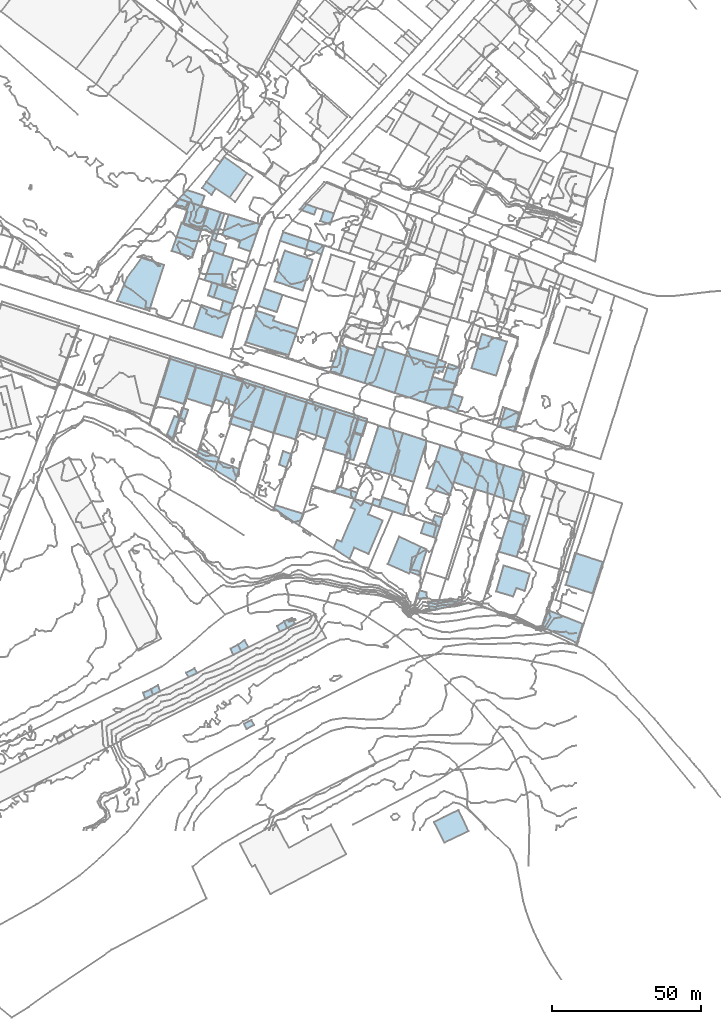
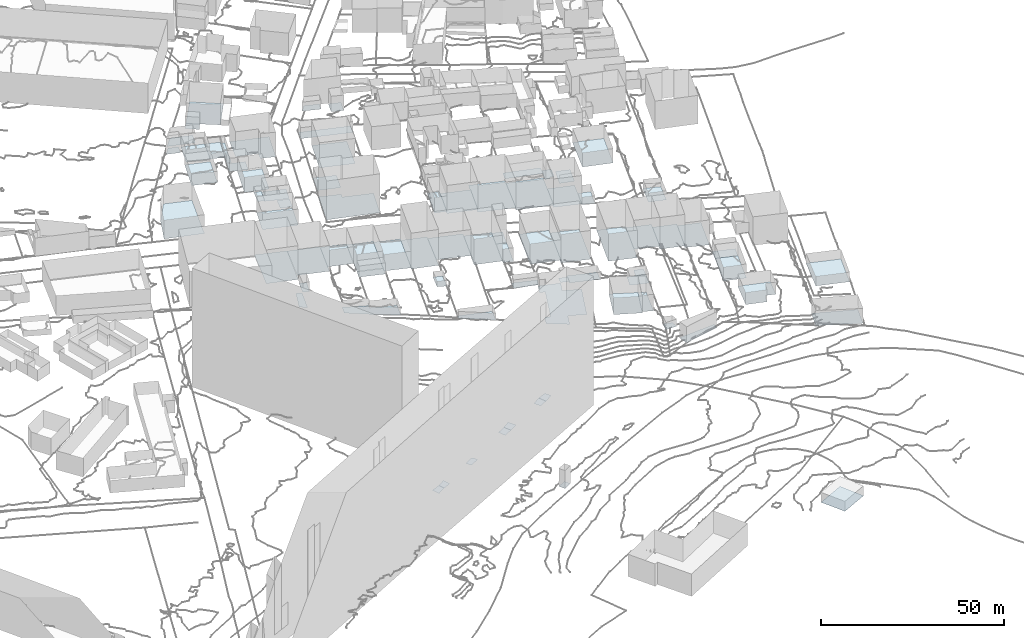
# Not in any storey, part 6 of 419: 79 footings.
"""IFC2X3 model written with IfcOpenShell, lengths in metres."""

from ifc_helpers import new_model, si_unit, frame, origin_with_axes, place, context, subcontext, project, faceted_brep, element, save


model = new_model("IFC2X3")

# Units and contexts
model_context = context("Model", 3, precision=1e-05, world=origin_with_axes())
body_context = subcontext(model_context, "Body", "Model", "MODEL_VIEW")
ifc_project = project(units=[si_unit("AREAUNIT", "SQUARE_METRE"), si_unit("LENGTHUNIT", "METRE")], contexts=[model_context])

# Footings
footing_1_placement = place(None, frame((922.9920204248, 76.0976909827, 71.5996003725), z_axis=(0.0, 0.0, 1.0), x_axis=(1.0, 0.0, 0.0)))
element("IfcFooting", 1, at=footing_1_placement, Name="Sol 0", PredefinedType="STRIP_FOOTING", context=body_context, shape_type="Brep", body=[
    faceted_brep([(3.4, 0.0, 0.0), (0.0, 0.0, 0.0), (0.7999999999, 2.7999999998, 0.0), (3.2, 2.0999999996, 0.0)], [[[0, 1, 2]], [[2, 3, 0]]]),
])
footing_2_placement = place(None, frame((928.6920204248, 152.1976909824, 73.6711987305), z_axis=(0.0, 0.0, 1.0), x_axis=(1.0, 0.0, 0.0)))
element("IfcFooting", 2, at=footing_2_placement, Name="Sol 0", PredefinedType="STRIP_FOOTING", context=body_context, shape_type="Brep", body=[
    faceted_brep([(1.5, -0.3999999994, 0.0), (0.0, 0.0, 0.0), (0.9, 2.5, 0.0), (4.0, 3.2999999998, 0.0), (2.9, 0.0, 0.0), (1.7000000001, 0.2999999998, 0.0), (1.3, 4.2000000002, 0.0)], [[[0, 1, 2]], [[3, 4, 5]], [[2, 6, 3]], [[5, 0, 2]], [[2, 3, 5]]]),
])
footing_3_placement = place(None, frame((841.2920204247, 207.9976909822, 78.8006016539), z_axis=(0.0, 0.0, 1.0), x_axis=(1.0, 0.0, 0.0)))
element("IfcFooting", 3, at=footing_3_placement, Name="Sol 0", PredefinedType="STRIP_FOOTING", context=body_context, shape_type="Brep", body=[
    faceted_brep([(1.9, 2.3000000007, 0.0), (4.7000000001, 1.4000000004, 0.0), (3.8, -1.1999999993, 0.0), (0.0, 0.0, 0.0)], [[[0, 1, 2]], [[2, 3, 0]]]),
])
footing_4_placement = place(None, frame((876.9920204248, 196.2976909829, 78.6641006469), z_axis=(0.0, 0.0, 1.0), x_axis=(1.0, 0.0, 0.0)))
element("IfcFooting", 4, at=footing_4_placement, Name="Sol 0", PredefinedType="STRIP_FOOTING", context=body_context, shape_type="Brep", body=[
    faceted_brep([(13.9, -4.6000000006, 0.0), (0.0, 0.0, 0.0), (1.0, 2.8999999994, 0.0), (14.9, -1.6000000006, 0.0)], [[[0, 1, 2]], [[2, 3, 0]]]),
])
footing_5_placement = place(None, frame((844.2920204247, 202.2976909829, 78.6877996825), z_axis=(0.0, 0.0, 1.0), x_axis=(1.0, 0.0, 0.0)))
element("IfcFooting", 5, at=footing_5_placement, Name="Sol 0", PredefinedType="STRIP_FOOTING", context=body_context, shape_type="Brep", body=[
    faceted_brep([(2.3, 6.8999999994, 0.0), (8.7000000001, 4.8999999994, 0.0), (6.4, -2.1000000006, 0.0), (0.0, 0.0, 0.0)], [[[0, 1, 2]], [[2, 3, 0]]]),
])
footing_6_placement = place(None, frame((852.7920204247, 193.2976909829, 77.9876005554), z_axis=(0.0, 0.0, 1.0), x_axis=(1.0, 0.0, 0.0)))
element("IfcFooting", 6, at=footing_6_placement, Name="Sol 0", PredefinedType="STRIP_FOOTING", context=body_context, shape_type="Brep", body=[
    faceted_brep([(0.0, 0.0, 0.0), (1.2000000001, 3.5999999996, 0.0), (2.4, 3.0999999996, 0.0), (6.1000000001, 1.8999999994, 0.0), (4.9, -1.8000000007, 0.0)], [[[0, 1, 2]], [[3, 4, 0]], [[0, 2, 3]]]),
])
footing_7_placement = place(None, frame((890.4920204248, 202.9976909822, 78.856399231), z_axis=(0.0, 0.0, 1.0), x_axis=(1.0, 0.0, 0.0)))
element("IfcFooting", 7, at=footing_7_placement, Name="Sol 0", PredefinedType="STRIP_FOOTING", context=body_context, shape_type="Brep", body=[
    faceted_brep([(0.0, 0.0, 0.0), (1.2, 3.6000000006, 0.0), (4.6, 2.5, 0.0), (3.2999999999, -1.1999999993, 0.0)], [[[0, 1, 2]], [[2, 3, 0]]]),
])
footing_8_placement = place(None, frame((852.1920204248, 216.0976909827, 80.4232022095), z_axis=(0.0, 0.0, 1.0), x_axis=(1.0, 0.0, 0.0)))
element("IfcFooting", 8, at=footing_8_placement, Name="Sol 0", PredefinedType="STRIP_FOOTING", context=body_context, shape_type="Brep", body=[
    faceted_brep([(0.0, 0.0, 0.0), (6.0, 8.3999999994, 0.0), (13.6, 3.0, 0.0), (7.8, -5.2999999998, 0.0)], [[[0, 1, 2]], [[2, 3, 0]]]),
])
footing_9_placement = place(None, frame((845.3920204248, 143.3976909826, 76.161000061), z_axis=(0.0, 0.0, 1.0), x_axis=(1.0, 0.0, 0.0)))
element("IfcFooting", 9, at=footing_9_placement, Name="Sol 0", PredefinedType="STRIP_FOOTING", context=body_context, shape_type="Brep", body=[
    faceted_brep([(12.2, 8.7000000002, 0.0), (8.6, -2.7000000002, 0.0), (0.0, 0.0, 0.0), (3.3999999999, 11.4000000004, 0.0)], [[[0, 1, 2]], [[2, 3, 0]]]),
])
footing_10_placement = place(None, frame((864.8920204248, 34.0976909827, 65.1509995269), z_axis=(0.0, 0.0, 1.0), x_axis=(1.0, 0.0, 0.0)))
element("IfcFooting", 10, at=footing_10_placement, Name="Sol 0", PredefinedType="STRIP_FOOTING", context=body_context, shape_type="Brep", body=[
    faceted_brep([(2.5, 1.2000000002, 0.0), (3.3999999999, -0.4000000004, 0.0), (0.8999999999, -1.7999999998, 0.0), (0.0, 0.0, 0.0)], [[[0, 1, 2]], [[2, 3, 0]]]),
])
footing_11_placement = place(None, frame((850.6920204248, 200.1976909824, 78.6877996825), z_axis=(0.0, 0.0, 1.0), x_axis=(1.0, 0.0, 0.0)))
element("IfcFooting", 11, at=footing_11_placement, Name="Sol 0", PredefinedType="STRIP_FOOTING", context=body_context, shape_type="Brep", body=[
    faceted_brep([(2.3, 7.0, 0.0), (6.4, 5.6000000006, 0.0), (3.9, -1.2999999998, 0.0), (0.0, 0.0, 0.0)], [[[0, 1, 2]], [[2, 3, 0]]]),
])
footing_12_placement = place(None, frame((926.2920204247, 113.2976909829, 70.8120025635), z_axis=(0.0, 0.0, 1.0), x_axis=(1.0, 0.0, 0.0)))
element("IfcFooting", 12, at=footing_12_placement, Name="Sol 0", PredefinedType="STRIP_FOOTING", context=body_context, shape_type="Brep", body=[
    faceted_brep([(4.6000000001, 14.3999999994, 0.0), (12.3, 11.8999999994, 0.0), (7.7000000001, -2.5, 0.0), (0.0, 0.0, 0.0)], [[[0, 1, 2]], [[2, 3, 0]]]),
])
footing_13_placement = place(None, frame((941.2920204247, 153.4976909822, 72.6200027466), z_axis=(0.0, 0.0, 1.0), x_axis=(1.0, 0.0, 0.0)))
element("IfcFooting", 13, at=footing_13_placement, Name="Sol 0", PredefinedType="STRIP_FOOTING", context=body_context, shape_type="Brep", body=[
    faceted_brep([(11.9, 8.9000000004, 0.0), (8.3, -2.5, 0.0), (0.0, 0.0, 0.0), (3.5, 11.5, 0.0)], [[[0, 1, 2]], [[2, 3, 0]]]),
])
footing_14_placement = place(None, frame((874.6920204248, 131.7976909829, 75.0439979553), z_axis=(0.0, 0.0, 1.0), x_axis=(1.0, 0.0, 0.0)))
element("IfcFooting", 14, at=footing_14_placement, Name="Sol 0", PredefinedType="STRIP_FOOTING", context=body_context, shape_type="Brep", body=[
    faceted_brep([(7.4, -2.2000000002, 0.0), (0.0, 0.0, 0.0), (4.3, 13.2999999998, 0.0), (11.4, 11.0999999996, 0.0)], [[[0, 1, 2]], [[2, 3, 0]]]),
])
footing_15_placement = place(None, frame((854.7920204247, 142.9976909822, 75.9445007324), z_axis=(0.0, 0.0, 1.0), x_axis=(1.0, 0.0, 0.0)))
element("IfcFooting", 15, at=footing_15_placement, Name="Sol 0", PredefinedType="STRIP_FOOTING", context=body_context, shape_type="Brep", body=[
    faceted_brep([(2.8, 9.1000000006, 0.0), (9.9, 6.9000000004, 0.0), (6.9, -2.0999999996, 0.0), (0.0, 0.0, 0.0)], [[[0, 1, 2]], [[2, 3, 0]]]),
])
footing_16_placement = place(None, frame((851.5920204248, 183.0976909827, 77.6009994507), z_axis=(0.0, 0.0, 1.0), x_axis=(1.0, 0.0, 0.0)))
element("IfcFooting", 16, at=footing_16_placement, Name="Sol 0", PredefinedType="STRIP_FOOTING", context=body_context, shape_type="Brep", body=[
    faceted_brep([(0.0, 0.0, 0.0), (3.3, 9.5, 0.0), (6.1, 8.3999999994, 0.0), (9.8, 7.2999999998, 0.0), (6.7, -2.0, 0.0)], [[[0, 1, 2]], [[3, 4, 0]], [[0, 2, 3]]]),
])
footing_17_placement = place(None, frame((905.3920204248, 148.4976909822, 73.1300024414), z_axis=(0.0, 0.0, 1.0), x_axis=(1.0, 0.0, 0.0)))
element("IfcFooting", 17, at=footing_17_placement, Name="Sol 0", PredefinedType="STRIP_FOOTING", context=body_context, shape_type="Brep", body=[
    faceted_brep([(0.0, 0.0, 0.0), (3.7999999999, 11.3000000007, 0.0), (4.2, 12.4000000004, 0.0), (13.8999999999, 9.2000000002, 0.0), (10.1, -3.2999999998, 0.0)], [[[0, 1, 2]], [[3, 4, 0]], [[0, 2, 3]]]),
])
footing_18_placement = place(None, frame((856.8920204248, 172.5976909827, 76.904000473), z_axis=(0.0, 0.0, 1.0), x_axis=(1.0, 0.0, 0.0)))
element("IfcFooting", 18, at=footing_18_placement, Name="Sol 0", PredefinedType="STRIP_FOOTING", context=body_context, shape_type="Brep", body=[
    faceted_brep([(4.2999999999, 2.5, 0.0), (3.2, -1.1000000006, 0.0), (0.0, 0.0, 0.0), (1.0, 3.5999999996, 0.0)], [[[0, 1, 2]], [[2, 3, 0]]]),
])
footing_19_placement = place(None, frame((878.3920204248, 68.4976909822, 69.0483990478), z_axis=(0.0, 0.0, 1.0), x_axis=(1.0, 0.0, 0.0)))
element("IfcFooting", 19, at=footing_19_placement, Name="Sol 0", PredefinedType="STRIP_FOOTING", context=body_context, shape_type="Brep", body=[
    faceted_brep([(2.6, 1.1000000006, 0.0), (3.6, -0.6999999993, 0.0), (1.0, -2.2999999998, 0.0), (0.0, 0.0, 0.0)], [[[0, 1, 2]], [[2, 3, 0]]]),
])
footing_20_placement = place(None, frame((907.8920204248, 107.6976909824, 73.5280007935), z_axis=(0.0, 0.0, 1.0), x_axis=(1.0, 0.0, 0.0)))
element("IfcFooting", 20, at=footing_20_placement, Name="Sol 0", PredefinedType="STRIP_FOOTING", context=body_context, shape_type="Brep", body=[
    faceted_brep([(3.0, 1.2999999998, 0.0), (2.3999999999, -0.7999999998, 0.0), (0.0, 0.0, 0.0), (0.6, 2.0, 0.0)], [[[0, 1, 2]], [[2, 3, 0]]]),
])
footing_21_placement = place(None, frame((833.6920204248, 45.6976909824, 69.3569992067), z_axis=(0.0, 0.0, 1.0), x_axis=(1.0, 0.0, 0.0)))
element("IfcFooting", 21, at=footing_21_placement, Name="Sol 0", PredefinedType="STRIP_FOOTING", context=body_context, shape_type="Brep", body=[
    faceted_brep([(3.0, -0.7999999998, 0.0), (0.6, -1.8999999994, 0.0), (0.0, 0.0, 0.0), (2.3, 1.4000000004, 0.0)], [[[0, 1, 2]], [[2, 3, 0]]]),
])
footing_22_placement = place(None, frame((928.6920204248, 1.0976909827, 57.486000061), z_axis=(0.0, 0.0, 1.0), x_axis=(1.0, 0.0, 0.0)))
element("IfcFooting", 22, at=footing_22_placement, Name="Sol 0", PredefinedType="STRIP_FOOTING", context=body_context, shape_type="Brep", body=[
    faceted_brep([(8.3, 4.0, 0.0), (11.6, -3.1000000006, 0.0), (3.5, -7.0, 0.0), (0.0, 0.0, 0.0)], [[[0, 1, 2]], [[2, 3, 0]]]),
])
footing_23_placement = place(None, frame((859.9920204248, 134.8976909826, 75.5856011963), z_axis=(0.0, 0.0, 1.0), x_axis=(1.0, 0.0, 0.0)))
element("IfcFooting", 23, at=footing_23_placement, Name="Sol 0", PredefinedType="STRIP_FOOTING", context=body_context, shape_type="Brep", body=[
    faceted_brep([(7.7999999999, 0.2999999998, 0.0), (7.5, -0.7000000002, 0.0), (7.0, -2.2999999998, 0.0), (0.0, 0.0, 0.0), (0.7999999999, 2.5, 0.0)], [[[0, 1, 2]], [[3, 4, 0]], [[0, 2, 3]]]),
])
footing_24_placement = place(None, frame((910.2920204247, 106.8976909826, 73.0340019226), z_axis=(0.0, 0.0, 1.0), x_axis=(1.0, 0.0, 0.0)))
element("IfcFooting", 24, at=footing_24_placement, Name="Sol 0", PredefinedType="STRIP_FOOTING", context=body_context, shape_type="Brep", body=[
    faceted_brep([(8.2000000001, -2.7000000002, 0.0), (4.5, -1.5, 0.0), (0.0, 0.0, 0.0), (1.0, 3.2999999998, 0.0), (9.1000000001, 0.5999999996, 0.0)], [[[0, 1, 2]], [[3, 4, 0]], [[0, 2, 3]]]),
])
footing_25_placement = place(None, frame((848.8920204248, 123.6976909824, 74.2920004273), z_axis=(0.0, 0.0, 1.0), x_axis=(1.0, 0.0, 0.0)))
element("IfcFooting", 25, at=footing_25_placement, Name="Sol 0", PredefinedType="STRIP_FOOTING", context=body_context, shape_type="Brep", body=[
    faceted_brep([(12.8999999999, -8.5, 0.0), (6.2999999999, -4.3999999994, 0.0), (0.0, 0.0, 0.0), (7.2, -1.2999999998, 0.0), (14.2999999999, -4.0999999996, 0.0), (0.7999999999, 2.7000000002, 0.0), (7.6, -0.2999999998, 0.0)], [[[0, 1, 2]], [[3, 4, 0]], [[5, 6, 3]], [[0, 2, 5]], [[5, 3, 0]]]),
])
footing_26_placement = place(None, frame((838.9920204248, 131.2976909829, 75.15), z_axis=(0.0, 0.0, 1.0), x_axis=(1.0, 0.0, 0.0)))
element("IfcFooting", 26, at=footing_26_placement, Name="Sol 0", PredefinedType="STRIP_FOOTING", context=body_context, shape_type="Brep", body=[
    faceted_brep([(4.1, 5.5, 0.0), (1.9, -1.4000000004, 0.0), (0.0, 0.0, 0.0), (2.5, 6.0999999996, 0.0)], [[[0, 1, 2]], [[2, 3, 0]]]),
])
footing_27_placement = place(None, frame((953.6920204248, 102.3976909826, 68.6312010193), z_axis=(0.0, 0.0, 1.0), x_axis=(1.0, 0.0, 0.0)))
element("IfcFooting", 27, at=footing_27_placement, Name="Sol 0", PredefinedType="STRIP_FOOTING", context=body_context, shape_type="Brep", body=[
    faceted_brep([(0.0, 0.0, 0.0), (1.0, 3.4000000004, 0.0), (7.2000000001, 1.4000000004, 0.0), (6.1, -2.0, 0.0)], [[[0, 1, 2]], [[2, 3, 0]]]),
])
footing_28_placement = place(None, frame((901.6920204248, 132.0976909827, 73.565098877), z_axis=(0.0, 0.0, 1.0), x_axis=(1.0, 0.0, 0.0)))
element("IfcFooting", 28, at=footing_28_placement, Name="Sol 0", PredefinedType="STRIP_FOOTING", context=body_context, shape_type="Brep", body=[
    faceted_brep([(1.6, 5.2999999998, 0.0), (4.6, 4.3999999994, 0.0), (2.8, -0.9000000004, 0.0), (0.0, 0.0, 0.0)], [[[0, 1, 2]], [[2, 3, 0]]]),
])
footing_29_placement = place(None, frame((874.8920204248, 106.3976909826, 73.9040000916), z_axis=(0.0, 0.0, 1.0), x_axis=(1.0, 0.0, 0.0)))
element("IfcFooting", 29, at=footing_29_placement, Name="Sol 0", PredefinedType="STRIP_FOOTING", context=body_context, shape_type="Brep", body=[
    faceted_brep([(9.7999999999, -1.7999999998, 0.0), (8.5, -5.7999999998, 0.0), (0.0, 0.0, 0.0), (0.3999999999, 1.0999999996, 0.0)], [[[0, 1, 2]], [[2, 3, 0]]]),
])
footing_30_placement = place(None, frame((845.3920204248, 51.1976909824, 69.2899986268), z_axis=(0.0, 0.0, 1.0), x_axis=(1.0, 0.0, 0.0)))
element("IfcFooting", 30, at=footing_30_placement, Name="Sol 0", PredefinedType="STRIP_FOOTING", context=body_context, shape_type="Brep", body=[
    faceted_brep([(2.7999999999, 1.5, 0.0), (3.7999999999, -0.0999999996, 0.0), (0.8999999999, -1.5, 0.0), (0.0, 0.0, 0.0)], [[[0, 1, 2]], [[2, 3, 0]]]),
])
footing_31_placement = place(None, frame((883.0920204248, 132.8976909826, 74.5310005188), z_axis=(0.0, 0.0, 1.0), x_axis=(1.0, 0.0, 0.0)))
element("IfcFooting", 31, at=footing_31_placement, Name="Sol 0", PredefinedType="STRIP_FOOTING", context=body_context, shape_type="Brep", body=[
    faceted_brep([(3.0, 10.0, 0.0), (12.6, 7.0, 0.0), (9.4, -3.0999999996, 0.0), (0.0, 0.0, 0.0)], [[[0, 1, 2]], [[2, 3, 0]]]),
])
footing_32_placement = place(None, frame((847.8920204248, 166.7976909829, 76.3241984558), z_axis=(0.0, 0.0, 1.0), x_axis=(1.0, 0.0, 0.0)))
element("IfcFooting", 32, at=footing_32_placement, Name="Sol 0", PredefinedType="STRIP_FOOTING", context=body_context, shape_type="Brep", body=[
    faceted_brep([(9.6, -3.0, 0.0), (0.0, 0.0, 0.0), (2.7, 7.8999999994, 0.0), (12.2, 4.6999999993, 0.0)], [[[0, 1, 2]], [[2, 3, 0]]]),
])
footing_33_placement = place(None, frame((925.5920204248, 141.9976909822, 71.6450004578), z_axis=(0.0, 0.0, 1.0), x_axis=(1.0, 0.0, 0.0)))
element("IfcFooting", 33, at=footing_33_placement, Name="Sol 0", PredefinedType="STRIP_FOOTING", context=body_context, shape_type="Brep", body=[
    faceted_brep([(7.5, -2.3999999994, 0.0), (0.0, 0.0, 0.0), (2.6, 8.6000000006, 0.0), (10.2, 6.3000000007, 0.0)], [[[0, 1, 2]], [[2, 3, 0]]]),
])
footing_34_placement = place(None, frame((913.1920204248, 87.6976909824, 73.0757994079), z_axis=(0.0, 0.0, 1.0), x_axis=(1.0, 0.0, 0.0)))
element("IfcFooting", 34, at=footing_34_placement, Name="Sol 0", PredefinedType="STRIP_FOOTING", context=body_context, shape_type="Brep", body=[
    faceted_brep([(3.8, 9.2000000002, 0.0), (11.0, 5.7999999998, 0.0), (7.2000000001, -3.2000000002, 0.0), (0.0, 0.0, 0.0)], [[[0, 1, 2]], [[2, 3, 0]]]),
])
footing_35_placement = place(None, frame((876.6920204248, 121.0976909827, 74.9028998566), z_axis=(0.0, 0.0, 1.0), x_axis=(1.0, 0.0, 0.0)))
element("IfcFooting", 35, at=footing_35_placement, Name="Sol 0", PredefinedType="STRIP_FOOTING", context=body_context, shape_type="Brep", body=[
    faceted_brep([(4.0, 3.5999999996, 0.0), (2.4, -1.0, 0.0), (0.0, 0.0, 0.0), (1.3, 4.5, 0.0)], [[[0, 1, 2]], [[2, 3, 0]]]),
])
footing_36_placement = place(None, frame((862.8920204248, 60.6976909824, 69.4219978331), z_axis=(0.0, 0.0, 1.0), x_axis=(1.0, 0.0, 0.0)))
element("IfcFooting", 36, at=footing_36_placement, Name="Sol 0", PredefinedType="STRIP_FOOTING", context=body_context, shape_type="Brep", body=[
    faceted_brep([(3.5, -0.7999999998, 0.0), (1.0, -2.2000000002, 0.0), (0.0, 0.0, 0.0), (2.2, 1.5, 0.0)], [[[0, 1, 2]], [[2, 3, 0]]]),
])
footing_37_placement = place(None, frame((830.9920204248, 44.4976909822, 69.3569992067), z_axis=(0.0, 0.0, 1.0), x_axis=(1.0, 0.0, 0.0)))
element("IfcFooting", 37, at=footing_37_placement, Name="Sol 0", PredefinedType="STRIP_FOOTING", context=body_context, shape_type="Brep", body=[
    faceted_brep([(2.7, 1.2000000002, 0.0), (3.2999999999, -0.6999999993, 0.0), (0.7999999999, -2.1999999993, 0.0), (0.0, 0.0, 0.0)], [[[0, 1, 2]], [[2, 3, 0]]]),
])
footing_38_placement = place(None, frame((927.9920204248, 101.2976909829, 72.4149993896), z_axis=(0.0, 0.0, 1.0), x_axis=(1.0, 0.0, 0.0)))
element("IfcFooting", 38, at=footing_38_placement, Name="Sol 0", PredefinedType="STRIP_FOOTING", context=body_context, shape_type="Brep", body=[
    faceted_brep([(1.0, 2.7999999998, 0.0), (3.6, 2.0, 0.0), (2.7, -1.0, 0.0), (0.0, 0.0, 0.0)], [[[0, 1, 2]], [[2, 3, 0]]]),
])
footing_39_placement = place(None, frame((875.9920204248, 66.8976909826, 69.0483990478), z_axis=(0.0, 0.0, 1.0), x_axis=(1.0, 0.0, 0.0)))
element("IfcFooting", 39, at=footing_39_placement, Name="Sol 0", PredefinedType="STRIP_FOOTING", context=body_context, shape_type="Brep", body=[
    faceted_brep([(2.4, 1.5999999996, 0.0), (3.4, -0.7000000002, 0.0), (1.0, -1.9000000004, 0.0), (0.0, 0.0, 0.0)], [[[0, 1, 2]], [[2, 3, 0]]]),
])
footing_40_placement = place(None, frame((842.8920204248, 135.9976909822, 75.8583978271), z_axis=(0.0, 0.0, 1.0), x_axis=(1.0, 0.0, 0.0)))
element("IfcFooting", 40, at=footing_40_placement, Name="Sol 0", PredefinedType="STRIP_FOOTING", context=body_context, shape_type="Brep", body=[
    faceted_brep([(0.0, 0.0, 0.0), (0.2, 0.8000000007, 0.0), (1.2, 4.2000000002, 0.0), (3.2, 3.5, 0.0), (1.7999999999, -0.5, 0.0)], [[[0, 1, 2]], [[3, 4, 0]], [[0, 2, 3]]]),
])
footing_41_placement = place(None, frame((883.4920204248, 206.7976909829, 79.1811997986), z_axis=(0.0, 0.0, 1.0), x_axis=(1.0, 0.0, 0.0)))
element("IfcFooting", 41, at=footing_41_placement, Name="Sol 0", PredefinedType="STRIP_FOOTING", context=body_context, shape_type="Brep", body=[
    faceted_brep([(5.0, -1.7000000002, 0.0), (0.0, 0.0, 0.0), (1.7, 2.0, 0.0), (5.7999999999, 0.5999999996, 0.0)], [[[0, 1, 2]], [[2, 3, 0]]]),
])
footing_42_placement = place(None, frame((924.2920204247, 98.0976909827, 72.6780975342), z_axis=(0.0, 0.0, 1.0), x_axis=(1.0, 0.0, 0.0)))
element("IfcFooting", 42, at=footing_42_placement, Name="Sol 0", PredefinedType="STRIP_FOOTING", context=body_context, shape_type="Brep", body=[
    faceted_brep([(1.3, 3.7999999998, 0.0), (6.4, 2.2000000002, 0.0), (5.1000000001, -1.7000000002, 0.0), (0.0, 0.0, 0.0)], [[[0, 1, 2]], [[2, 3, 0]]]),
])
footing_43_placement = place(None, frame((972.9920204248, 80.6976909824, 65.9680023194), z_axis=(0.0, 0.0, 1.0), x_axis=(1.0, 0.0, 0.0)))
element("IfcFooting", 43, at=footing_43_placement, Name="Sol 0", PredefinedType="STRIP_FOOTING", context=body_context, shape_type="Brep", body=[
    faceted_brep([(12.4, 7.7000000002, 0.0), (9.0, -2.8999999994, 0.0), (0.0, 0.0, 0.0), (3.1, 10.7000000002, 0.0)], [[[0, 1, 2]], [[2, 3, 0]]]),
])
footing_44_placement = place(None, frame((853.9920204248, 196.8976909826, 78.2600006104), z_axis=(0.0, 0.0, 1.0), x_axis=(1.0, 0.0, 0.0)))
element("IfcFooting", 44, at=footing_44_placement, Name="Sol 0", PredefinedType="STRIP_FOOTING", context=body_context, shape_type="Brep", body=[
    faceted_brep([(3.1, 8.9000000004, 0.0), (4.2999999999, 8.5999999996, 0.0), (1.2, -0.5, 0.0), (0.0, 0.0, 0.0)], [[[0, 1, 2]], [[2, 3, 0]]]),
])
footing_45_placement = place(None, frame((895.2920204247, 111.5976909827, 73.6999996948), z_axis=(0.0, 0.0, 1.0), x_axis=(1.0, 0.0, 0.0)))
element("IfcFooting", 45, at=footing_45_placement, Name="Sol 0", PredefinedType="STRIP_FOOTING", context=body_context, shape_type="Brep", body=[
    faceted_brep([(7.6000000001, 0.0999999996, 0.0), (6.8, -2.1000000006, 0.0), (0.0, 0.0, 0.0), (0.9, 2.2999999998, 0.0)], [[[0, 1, 2]], [[2, 3, 0]]]),
])
footing_46_placement = place(None, frame((893.7920204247, 152.0976909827, 74.7480007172), z_axis=(0.0, 0.0, 1.0), x_axis=(1.0, 0.0, 0.0)))
element("IfcFooting", 46, at=footing_46_placement, Name="Sol 0", PredefinedType="STRIP_FOOTING", context=body_context, shape_type="Brep", body=[
    faceted_brep([(0.0, 0.0, 0.0), (3.0, 9.2000000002, 0.0), (6.3, 8.2000000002, 0.0), (3.3, -1.0, 0.0)], [[[0, 1, 2]], [[2, 3, 0]]]),
])
footing_47_placement = place(None, frame((875.0920204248, 182.6976909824, 77.83099823), z_axis=(0.0, 0.0, 1.0), x_axis=(1.0, 0.0, 0.0)))
element("IfcFooting", 47, at=footing_47_placement, Name="Sol 0", PredefinedType="STRIP_FOOTING", context=body_context, shape_type="Brep", body=[
    faceted_brep([(9.5, -3.0999999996, 0.0), (0.0, 0.0, 0.0), (3.5, 10.2999999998, 0.0), (12.8, 7.2000000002, 0.0)], [[[0, 1, 2]], [[2, 3, 0]]]),
])
footing_48_placement = place(None, frame((869.6920204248, 174.3976909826, 77.1950019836), z_axis=(0.0, 0.0, 1.0), x_axis=(1.0, 0.0, 0.0)))
element("IfcFooting", 48, at=footing_48_placement, Name="Sol 0", PredefinedType="STRIP_FOOTING", context=body_context, shape_type="Brep", body=[
    faceted_brep([(0.0, 0.0, 0.0), (1.9, 5.7999999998, 0.0), (8.1, 3.7000000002, 0.0), (6.2000000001, -2.0, 0.0)], [[[0, 1, 2]], [[2, 3, 0]]]),
])
footing_49_placement = place(None, frame((964.8920204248, 66.6976909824, 64.0479988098), z_axis=(0.0, 0.0, 1.0), x_axis=(1.0, 0.0, 0.0)))
element("IfcFooting", 49, at=footing_49_placement, Name="Sol 0", PredefinedType="STRIP_FOOTING", context=body_context, shape_type="Brep", body=[
    faceted_brep([(1.8999999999, 5.6000000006, 0.0), (13.7999999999, 0.9000000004, 0.0), (12.2999999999, -3.8999999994, 0.0), (11.7999999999, -5.5, 0.0), (0.0, 0.0, 0.0)], [[[0, 1, 2]], [[3, 4, 0]], [[0, 2, 3]]]),
])
footing_50_placement = place(None, frame((949.5920204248, 78.4976909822, 69.2433996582), z_axis=(0.0, 0.0, 1.0), x_axis=(1.0, 0.0, 0.0)))
element("IfcFooting", 50, at=footing_50_placement, Name="Sol 0", PredefinedType="STRIP_FOOTING", context=body_context, shape_type="Brep", body=[
    faceted_brep([(0.0, 0.0, 0.0), (2.5, 8.7000000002, 0.0), (11.3, 6.0, 0.0), (6.8, 1.1000000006, 0.0), (5.7, -1.6999999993, 0.0), (9.6, 0.2000000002, 0.0)], [[[0, 1, 2]], [[3, 4, 0]], [[2, 5, 3]], [[3, 0, 2]]]),
])
footing_51_placement = place(None, frame((948.9920204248, 110.7976909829, 68.9369995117), z_axis=(0.0, 0.0, 1.0), x_axis=(1.0, 0.0, 0.0)))
element("IfcFooting", 51, at=footing_51_placement, Name="Sol 0", PredefinedType="STRIP_FOOTING", context=body_context, shape_type="Brep", body=[
    faceted_brep([(6.5, -2.2000000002, 0.0), (1.1, -0.4000000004, 0.0), (0.0, 0.0, 0.0), (3.2999999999, 10.0999999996, 0.0), (9.7999999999, 8.0999999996, 0.0)], [[[0, 1, 2]], [[3, 4, 0]], [[0, 2, 3]]]),
])
footing_52_placement = place(None, frame((950.2920204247, 91.8976909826, 68.7280014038), z_axis=(0.0, 0.0, 1.0), x_axis=(1.0, 0.0, 0.0)))
element("IfcFooting", 52, at=footing_52_placement, Name="Sol 0", PredefinedType="STRIP_FOOTING", context=body_context, shape_type="Brep", body=[
    faceted_brep([(9.5, 8.5, 0.0), (6.2000000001, -1.7999999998, 0.0), (0.0, 0.0, 0.0), (3.4, 10.5, 0.0)], [[[0, 1, 2]], [[2, 3, 0]]]),
])
footing_53_placement = place(None, frame((950.7920204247, 133.7976909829, 69.5340026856), z_axis=(0.0, 0.0, 1.0), x_axis=(1.0, 0.0, 0.0)))
element("IfcFooting", 53, at=footing_53_placement, Name="Sol 0", PredefinedType="STRIP_FOOTING", context=body_context, shape_type="Brep", body=[
    faceted_brep([(4.8, -1.5, 0.0), (0.0, 0.0, 0.0), (1.9, 6.3999999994, 0.0), (6.6000000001, 4.6999999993, 0.0)], [[[0, 1, 2]], [[2, 3, 0]]]),
])
footing_54_placement = place(None, frame((850.7920204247, 214.0976909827, 80.4339996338), z_axis=(0.0, 0.0, 1.0), x_axis=(1.0, 0.0, 0.0)))
element("IfcFooting", 54, at=footing_54_placement, Name="Sol 0", PredefinedType="STRIP_FOOTING", context=body_context, shape_type="Brep", body=[
    faceted_brep([(0.0, 0.0, 0.0), (1.4, 2.0, 0.0), (4.5, -0.2000000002, 0.0), (3.2000000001, -2.4000000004, 0.0)], [[[0, 1, 2]], [[2, 3, 0]]]),
])
footing_55_placement = place(None, frame((919.2920204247, 157.6976909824, 73.8568984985), z_axis=(0.0, 0.0, 1.0), x_axis=(1.0, 0.0, 0.0)))
element("IfcFooting", 55, at=footing_55_placement, Name="Sol 0", PredefinedType="STRIP_FOOTING", context=body_context, shape_type="Brep", body=[
    faceted_brep([(10.3, -3.0, 0.0), (0.0, 0.0, 0.0), (0.8, 2.7000000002, 0.0), (11.0, -0.2999999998, 0.0)], [[[0, 1, 2]], [[2, 3, 0]]]),
])
footing_56_placement = place(None, frame((860.3920204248, 59.2976909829, 69.4219978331), z_axis=(0.0, 0.0, 1.0), x_axis=(1.0, 0.0, 0.0)))
element("IfcFooting", 56, at=footing_56_placement, Name="Sol 0", PredefinedType="STRIP_FOOTING", context=body_context, shape_type="Brep", body=[
    faceted_brep([(2.5, 1.3999999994, 0.0), (3.5, -0.8000000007, 0.0), (0.8999999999, -2.1000000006, 0.0), (0.0, 0.0, 0.0)], [[[0, 1, 2]], [[2, 3, 0]]]),
])
footing_57_placement = place(None, frame((852.7920204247, 177.8976909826, 77.2629989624), z_axis=(0.0, 0.0, 1.0), x_axis=(1.0, 0.0, 0.0)))
element("IfcFooting", 57, at=footing_57_placement, Name="Sol 0", PredefinedType="STRIP_FOOTING", context=body_context, shape_type="Brep", body=[
    faceted_brep([(0.0, 0.0, 0.0), (1.3, 4.4000000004, 0.0), (3.3, 3.7000000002, 0.0), (1.9, -0.5999999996, 0.0)], [[[0, 1, 2]], [[2, 3, 0]]]),
])
footing_58_placement = place(None, frame((931.6920204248, 149.3976909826, 72.983201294), z_axis=(0.0, 0.0, 1.0), x_axis=(1.0, 0.0, 0.0)))
element("IfcFooting", 58, at=footing_58_placement, Name="Sol 0", PredefinedType="STRIP_FOOTING", context=body_context, shape_type="Brep", body=[
    faceted_brep([(4.1, -1.0999999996, 0.0), (0.0, 0.0, 0.0), (1.9, 5.5, 0.0), (5.8, 4.2999999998, 0.0)], [[[0, 1, 2]], [[2, 3, 0]]]),
])
footing_59_placement = place(None, frame((920.5920204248, 85.0976909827, 73.0299987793), z_axis=(0.0, 0.0, 1.0), x_axis=(1.0, 0.0, 0.0)))
element("IfcFooting", 59, at=footing_59_placement, Name="Sol 0", PredefinedType="STRIP_FOOTING", context=body_context, shape_type="Brep", body=[
    faceted_brep([(3.6, 8.3999999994, 0.0), (5.7, 7.5, 0.0), (3.0, -1.2000000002, 0.0), (0.0, 0.0, 0.0)], [[[0, 1, 2]], [[2, 3, 0]]]),
])
footing_60_placement = place(None, frame((898.8920204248, 123.4976909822, 73.7474008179), z_axis=(0.0, 0.0, 1.0), x_axis=(1.0, 0.0, 0.0)))
element("IfcFooting", 60, at=footing_60_placement, Name="Sol 0", PredefinedType="STRIP_FOOTING", context=body_context, shape_type="Brep", body=[
    faceted_brep([(2.7999999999, -0.8999999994, 0.0), (0.0, 0.0, 0.0), (2.7999999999, 8.6000000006, 0.0), (5.6, 7.7000000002, 0.0)], [[[0, 1, 2]], [[2, 3, 0]]]),
])
footing_61_placement = place(None, frame((913.8920204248, 117.7976909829, 71.851099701), z_axis=(0.0, 0.0, 1.0), x_axis=(1.0, 0.0, 0.0)))
element("IfcFooting", 61, at=footing_61_placement, Name="Sol 0", PredefinedType="STRIP_FOOTING", context=body_context, shape_type="Brep", body=[
    faceted_brep([(4.3999999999, 13.8999999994, 0.0), (12.3999999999, 11.2999999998, 0.0), (8.0, -2.5, 0.0), (0.0, 0.0, 0.0)], [[[0, 1, 2]], [[2, 3, 0]]]),
])
footing_62_placement = place(None, frame((905.5920204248, 120.2976909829, 72.7897001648), z_axis=(0.0, 0.0, 1.0), x_axis=(1.0, 0.0, 0.0)))
element("IfcFooting", 62, at=footing_62_placement, Name="Sol 0", PredefinedType="STRIP_FOOTING", context=body_context, shape_type="Brep", body=[
    faceted_brep([(4.5, 13.8999999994, 0.0), (12.7, 11.3999999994, 0.0), (8.3, -2.5, 0.0), (0.0, 0.0, 0.0)], [[[0, 1, 2]], [[2, 3, 0]]]),
])
footing_63_placement = place(None, frame((894.8920204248, 92.9976909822, 73.3090026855), z_axis=(0.0, 0.0, 1.0), x_axis=(1.0, 0.0, 0.0)))
element("IfcFooting", 63, at=footing_63_placement, Name="Sol 0", PredefinedType="STRIP_FOOTING", context=body_context, shape_type="Brep", body=[
    faceted_brep([(5.7999999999, 13.7000000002, 0.0), (7.0, 16.6000000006, 0.0), (13.1, 14.7000000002, 0.0), (0.0, 0.0, 0.0), (1.2, 2.8000000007, 0.0), (2.7, 2.2000000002, 0.0), (7.0, 0.2000000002, 0.0), (5.3999999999, -3.5999999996, 0.0), (16.6, 9.3000000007, 0.0), (11.7999999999, -1.8999999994, 0.0), (11.7, 11.4000000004, 0.0), (7.2999999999, 13.1000000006, 0.0)], [[[0, 1, 2]], [[3, 4, 5]], [[6, 7, 3]], [[8, 9, 6]], [[0, 2, 10]], [[6, 3, 5]], [[10, 8, 6]], [[11, 0, 10]], [[6, 5, 11]], [[11, 10, 6]]]),
])
footing_64_placement = place(None, frame((891.4920204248, 126.4976909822, 73.7870010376), z_axis=(0.0, 0.0, 1.0), x_axis=(1.0, 0.0, 0.0)))
element("IfcFooting", 64, at=footing_64_placement, Name="Sol 0", PredefinedType="STRIP_FOOTING", context=body_context, shape_type="Brep", body=[
    faceted_brep([(7.6, -2.2999999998, 0.0), (0.0, 0.0, 0.0), (4.2, 13.4000000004, 0.0), (11.7999999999, 10.9000000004, 0.0)], [[[0, 1, 2]], [[2, 3, 0]]]),
])
footing_65_placement = place(None, frame((867.4920204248, 134.1976909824, 75.4461991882), z_axis=(0.0, 0.0, 1.0), x_axis=(1.0, 0.0, 0.0)))
element("IfcFooting", 65, at=footing_65_placement, Name="Sol 0", PredefinedType="STRIP_FOOTING", context=body_context, shape_type="Brep", body=[
    faceted_brep([(11.5, 10.9000000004, 0.0), (7.2, -2.3999999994, 0.0), (0.0, 0.0, 0.0), (4.2999999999, 13.4000000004, 0.0)], [[[0, 1, 2]], [[2, 3, 0]]]),
])
footing_66_placement = place(None, frame((860.7920204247, 137.3976909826, 75.6688024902), z_axis=(0.0, 0.0, 1.0), x_axis=(1.0, 0.0, 0.0)))
element("IfcFooting", 66, at=footing_66_placement, Name="Sol 0", PredefinedType="STRIP_FOOTING", context=body_context, shape_type="Brep", body=[
    faceted_brep([(3.9, 12.5, 0.0), (11.0, 10.2000000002, 0.0), (7.0, -2.2000000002, 0.0), (0.0, 0.0, 0.0)], [[[0, 1, 2]], [[2, 3, 0]]]),
])
footing_67_placement = place(None, frame((835.9920204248, 144.0976909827, 76.2324005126), z_axis=(0.0, 0.0, 1.0), x_axis=(1.0, 0.0, 0.0)))
element("IfcFooting", 67, at=footing_67_placement, Name="Sol 0", PredefinedType="STRIP_FOOTING", context=body_context, shape_type="Brep", body=[
    faceted_brep([(8.6, -2.6000000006, 0.0), (0.0, 0.0, 0.0), (4.1, 13.5, 0.0), (12.7999999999, 10.7000000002, 0.0)], [[[0, 1, 2]], [[2, 3, 0]]]),
])
footing_68_placement = place(None, frame((842.8920204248, 210.2976909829, 79.5050990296), z_axis=(0.0, 0.0, 1.0), x_axis=(1.0, 0.0, 0.0)))
element("IfcFooting", 68, at=footing_68_placement, Name="Sol 0", PredefinedType="STRIP_FOOTING", context=body_context, shape_type="Brep", body=[
    faceted_brep([(0.0, 0.0, 0.0), (2.7, 3.0999999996, 0.0), (8.7, 1.0999999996, 0.0), (7.6, -2.3000000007, 0.0)], [[[0, 1, 2]], [[2, 3, 0]]]),
])
footing_69_placement = place(None, frame((840.5920204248, 192.8976909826, 77.7798992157), z_axis=(0.0, 0.0, 1.0), x_axis=(1.0, 0.0, 0.0)))
element("IfcFooting", 69, at=footing_69_placement, Name="Sol 0", PredefinedType="STRIP_FOOTING", context=body_context, shape_type="Brep", body=[
    faceted_brep([(3.3, 9.5, 0.0), (10.1, 7.2999999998, 0.0), (6.9, -2.2000000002, 0.0), (0.0, 0.0, 0.0)], [[[0, 1, 2]], [[2, 3, 0]]]),
])
footing_70_placement = place(None, frame((857.5920204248, 198.2976909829, 78.2925003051), z_axis=(0.0, 0.0, 1.0), x_axis=(1.0, 0.0, 0.0)))
element("IfcFooting", 70, at=footing_70_placement, Name="Sol 0", PredefinedType="STRIP_FOOTING", context=body_context, shape_type="Brep", body=[
    faceted_brep([(2.1, 6.8999999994, 0.0), (12.7, 3.5999999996, 0.0), (9.5, -5.6000000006, 0.0), (6.1, -1.9000000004, 0.0), (0.0, 0.0, 0.0), (5.4, -4.2000000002, 0.0)], [[[0, 1, 2]], [[3, 4, 0]], [[2, 5, 3]], [[3, 0, 2]]]),
])
footing_71_placement = place(None, frame((854.6920204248, 177.2976909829, 77.0497982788), z_axis=(0.0, 0.0, 1.0), x_axis=(1.0, 0.0, 0.0)))
element("IfcFooting", 71, at=footing_71_placement, Name="Sol 0", PredefinedType="STRIP_FOOTING", context=body_context, shape_type="Brep", body=[
    faceted_brep([(1.4, 4.2999999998, 0.0), (8.0, 2.1999999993, 0.0), (6.5, -2.2000000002, 0.0), (0.0, 0.0, 0.0)], [[[0, 1, 2]], [[2, 3, 0]]]),
])
footing_72_placement = place(None, frame((915.4920204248, 145.1976909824, 72.3500030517), z_axis=(0.0, 0.0, 1.0), x_axis=(1.0, 0.0, 0.0)))
element("IfcFooting", 72, at=footing_72_placement, Name="Sol 0", PredefinedType="STRIP_FOOTING", context=body_context, shape_type="Brep", body=[
    faceted_brep([(0.0, 0.0, 0.0), (3.7999999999, 12.5, 0.0), (14.1, 9.5, 0.0), (10.1, -3.2000000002, 0.0)], [[[0, 1, 2]], [[2, 3, 0]]]),
])
footing_73_placement = place(None, frame((897.0920204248, 151.0976909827, 74.034402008), z_axis=(0.0, 0.0, 1.0), x_axis=(1.0, 0.0, 0.0)))
element("IfcFooting", 73, at=footing_73_placement, Name="Sol 0", PredefinedType="STRIP_FOOTING", context=body_context, shape_type="Brep", body=[
    faceted_brep([(0.0, 0.0, 0.0), (3.0, 9.2000000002, 0.0), (11.3, 6.5999999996, 0.0), (8.3, -2.6000000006, 0.0)], [[[0, 1, 2]], [[2, 3, 0]]]),
])
footing_74_placement = place(None, frame((933.0920204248, 139.5976909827, 71.3590003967), z_axis=(0.0, 0.0, 1.0), x_axis=(1.0, 0.0, 0.0)))
element("IfcFooting", 74, at=footing_74_placement, Name="Sol 0", PredefinedType="STRIP_FOOTING", context=body_context, shape_type="Brep", body=[
    faceted_brep([(3.4, -1.2000000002, 0.0), (0.0, 0.0, 0.0), (1.8, 5.2000000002, 0.0), (5.2, 4.0999999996, 0.0)], [[[0, 1, 2]], [[2, 3, 0]]]),
])
footing_75_placement = place(None, frame((865.4920204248, 162.1976909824, 76.2343998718), z_axis=(0.0, 0.0, 1.0), x_axis=(1.0, 0.0, 0.0)))
element("IfcFooting", 75, at=footing_75_placement, Name="Sol 0", PredefinedType="STRIP_FOOTING", context=body_context, shape_type="Brep", body=[
    faceted_brep([(0.0, 0.0, 0.0), (3.6, 10.6000000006, 0.0), (9.6, 8.6000000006, 0.0), (17.5, 4.6000000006, 0.0), (14.4, -4.2999999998, 0.0), (9.2, 7.2999999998, 0.0)], [[[0, 1, 2]], [[3, 4, 0]], [[0, 2, 5]], [[5, 3, 0]]]),
])
footing_76_placement = place(None, frame((942.2920204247, 112.8976909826, 69.4924980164), z_axis=(0.0, 0.0, 1.0), x_axis=(1.0, 0.0, 0.0)))
element("IfcFooting", 76, at=footing_76_placement, Name="Sol 0", PredefinedType="STRIP_FOOTING", context=body_context, shape_type="Brep", body=[
    faceted_brep([(10.0, 8.0, 0.0), (6.7000000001, -2.0999999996, 0.0), (0.0, 0.0, 0.0), (3.2000000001, 10.0999999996, 0.0)], [[[0, 1, 2]], [[2, 3, 0]]]),
])
footing_77_placement = place(None, frame((935.3920204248, 115.1976909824, 70.4820007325), z_axis=(0.0, 0.0, 1.0), x_axis=(1.0, 0.0, 0.0)))
element("IfcFooting", 77, at=footing_77_placement, Name="Sol 0", PredefinedType="STRIP_FOOTING", context=body_context, shape_type="Brep", body=[
    faceted_brep([(3.2, 10.0, 0.0), (10.1, 7.7999999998, 0.0), (6.8999999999, -2.2999999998, 0.0), (0.0, 0.0, 0.0)], [[[0, 1, 2]], [[2, 3, 0]]]),
])
footing_78_placement = place(None, frame((822.1920204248, 176.0976909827, 76.6218009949), z_axis=(0.0, 0.0, 1.0), x_axis=(1.0, 0.0, 0.0)))
element("IfcFooting", 78, at=footing_78_placement, Name="Sol 0", PredefinedType="STRIP_FOOTING", context=body_context, shape_type="Brep", body=[
    faceted_brep([(8.2000000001, 14.5, 0.0), (15.8, 12.0999999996, 0.0), (11.5, -1.2000000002, 0.0), (0.0, 0.0, 0.0), (3.4, 7.7999999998, 0.0), (10.9, -3.2999999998, 0.0)], [[[0, 1, 2]], [[3, 4, 0]], [[2, 5, 3]], [[3, 0, 2]]]),
])
footing_79_placement = place(None, frame((926.6920204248, 75.0976909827, 68.2544003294), z_axis=(0.0, 0.0, 1.0), x_axis=(1.0, 0.0, 0.0)))
element("IfcFooting", 79, at=footing_79_placement, Name="Sol 0", PredefinedType="STRIP_FOOTING", context=body_context, shape_type="Brep", body=[
    faceted_brep([(11.5, 0.7999999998, 0.0), (11.2000000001, -0.9000000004, 0.0), (2.6, -2.6000000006, 0.0), (0.5, -3.1000000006, 0.0), (0.0, 0.0, 0.0)], [[[0, 1, 2]], [[3, 4, 0]], [[0, 2, 3]]]),
])

save(model, "model.ifc")
